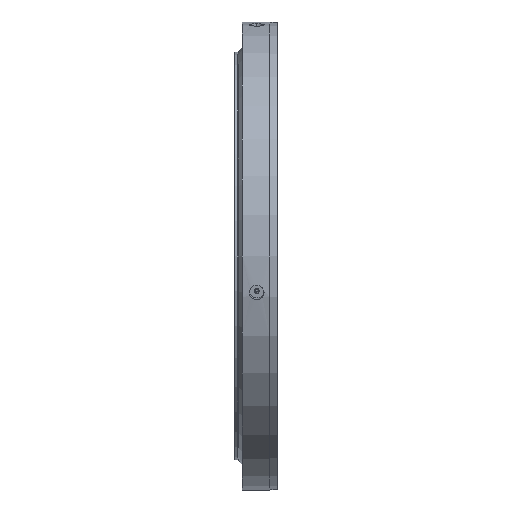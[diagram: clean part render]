
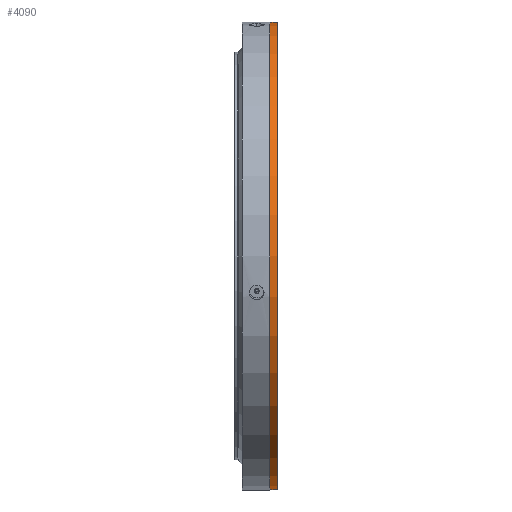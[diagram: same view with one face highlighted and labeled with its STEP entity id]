
A CAD part, left-side view. The second image highlights one B-rep face of the part: STEP entity #4090.
In plain terms, the highlighted cylindrical face has radius 320 mm (diameter 640 mm), a partial arc.
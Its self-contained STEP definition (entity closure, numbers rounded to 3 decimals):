
#464 = EDGE_LOOP ( 'NONE', ( #3506, #20512, #8161, #3026 ) ) ;
#554 = EDGE_CURVE ( 'NONE', #1518, #24401, #17194, .T. ) ;
#1518 = VERTEX_POINT ( 'NONE', #16149 ) ;
#3026 = ORIENTED_EDGE ( 'NONE', *, *, #554, .F. ) ;
#3506 = ORIENTED_EDGE ( 'NONE', *, *, #6488, .F. ) ;
#3527 = LINE ( 'NONE', #10057, #10654 ) ;
#3931 = CARTESIAN_POINT ( 'NONE',  ( 0., 0., 320. ) ) ;
#4090 = ADVANCED_FACE ( 'NONE', ( #6800 ), #8735, .T. ) ;
#4375 = CARTESIAN_POINT ( 'NONE',  ( 0., 8.134, 320. ) ) ;
#5358 = VERTEX_POINT ( 'NONE', #10330 ) ;
#5527 = CARTESIAN_POINT ( 'NONE',  ( 0., -1.866, 0. ) ) ;
#5812 = DIRECTION ( 'NONE',  ( 0., 0., -1. ) ) ;
#6117 = EDGE_CURVE ( 'NONE', #7617, #5358, #22563, .T. ) ;
#6488 = EDGE_CURVE ( 'NONE', #7617, #1518, #17042, .T. ) ;
#6800 = FACE_OUTER_BOUND ( 'NONE', #464, .T. ) ;
#7617 = VERTEX_POINT ( 'NONE', #4375 ) ;
#8161 = ORIENTED_EDGE ( 'NONE', *, *, #20637, .T. ) ;
#8735 = CYLINDRICAL_SURFACE ( 'NONE', #23113, 320. ) ;
#10057 = CARTESIAN_POINT ( 'NONE',  ( 0., 0., -320. ) ) ;
#10330 = CARTESIAN_POINT ( 'NONE',  ( 0., 8.134, -320. ) ) ;
#10502 = AXIS2_PLACEMENT_3D ( 'NONE', #24791, #22717, #5812 ) ;
#10654 = VECTOR ( 'NONE', #13976, 1000. ) ;
#12931 = DIRECTION ( 'NONE',  ( 0., 0., -1. ) ) ;
#13976 = DIRECTION ( 'NONE',  ( 0., -1., 0. ) ) ;
#14090 = VECTOR ( 'NONE', #25556, 1000. ) ;
#16149 = CARTESIAN_POINT ( 'NONE',  ( 0., -1.866, 320. ) ) ;
#17042 = LINE ( 'NONE', #3931, #14090 ) ;
#17194 = CIRCLE ( 'NONE', #20773, 320. ) ;
#18083 = DIRECTION ( 'NONE',  ( 0., -1., 0. ) ) ;
#20512 = ORIENTED_EDGE ( 'NONE', *, *, #6117, .T. ) ;
#20637 = EDGE_CURVE ( 'NONE', #5358, #24401, #3527, .T. ) ;
#20773 = AXIS2_PLACEMENT_3D ( 'NONE', #5527, #18083, #26474 ) ;
#21263 = CARTESIAN_POINT ( 'NONE',  ( 0., -1.866, -320. ) ) ;
#21316 = DIRECTION ( 'NONE',  ( 0., -1., 0. ) ) ;
#22563 = CIRCLE ( 'NONE', #10502, 320. ) ;
#22717 = DIRECTION ( 'NONE',  ( 0., -1., 0. ) ) ;
#23113 = AXIS2_PLACEMENT_3D ( 'NONE', #23556, #21316, #12931 ) ;
#23556 = CARTESIAN_POINT ( 'NONE',  ( 0., 0., 0. ) ) ;
#24401 = VERTEX_POINT ( 'NONE', #21263 ) ;
#24791 = CARTESIAN_POINT ( 'NONE',  ( 0., 8.134, 0. ) ) ;
#25556 = DIRECTION ( 'NONE',  ( 0., -1., 0. ) ) ;
#26474 = DIRECTION ( 'NONE',  ( 0., 0., -1. ) ) ;
